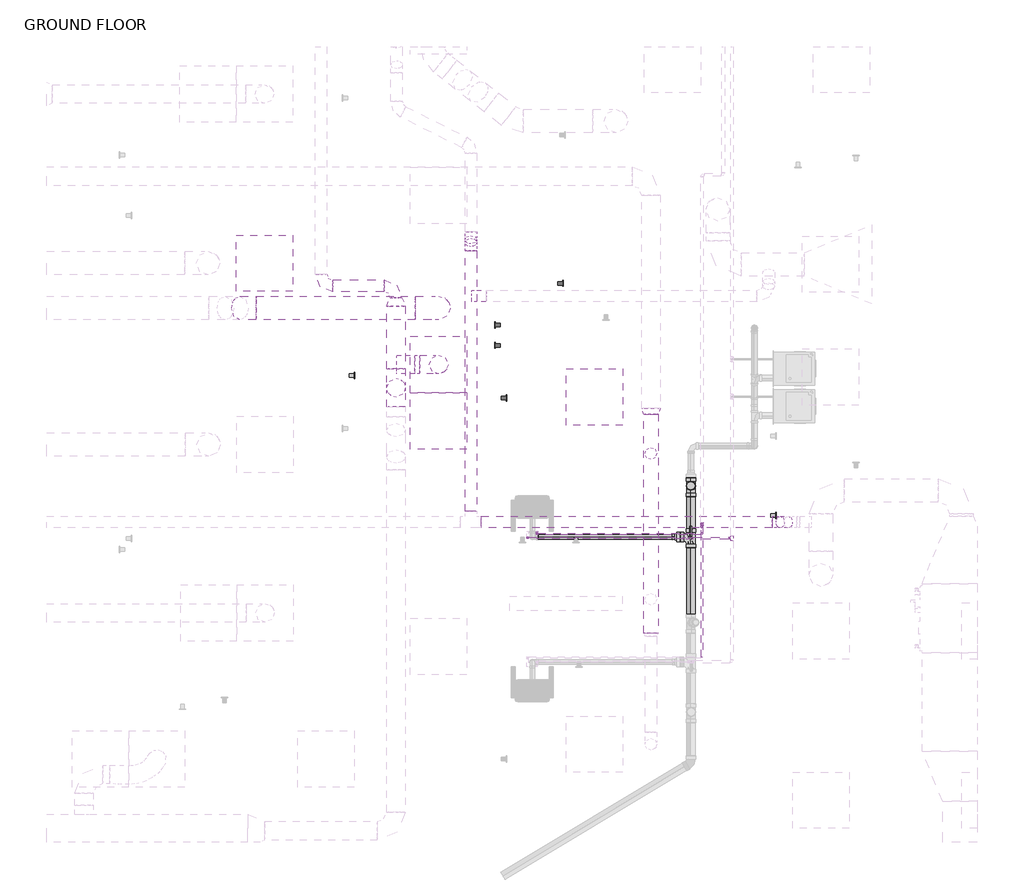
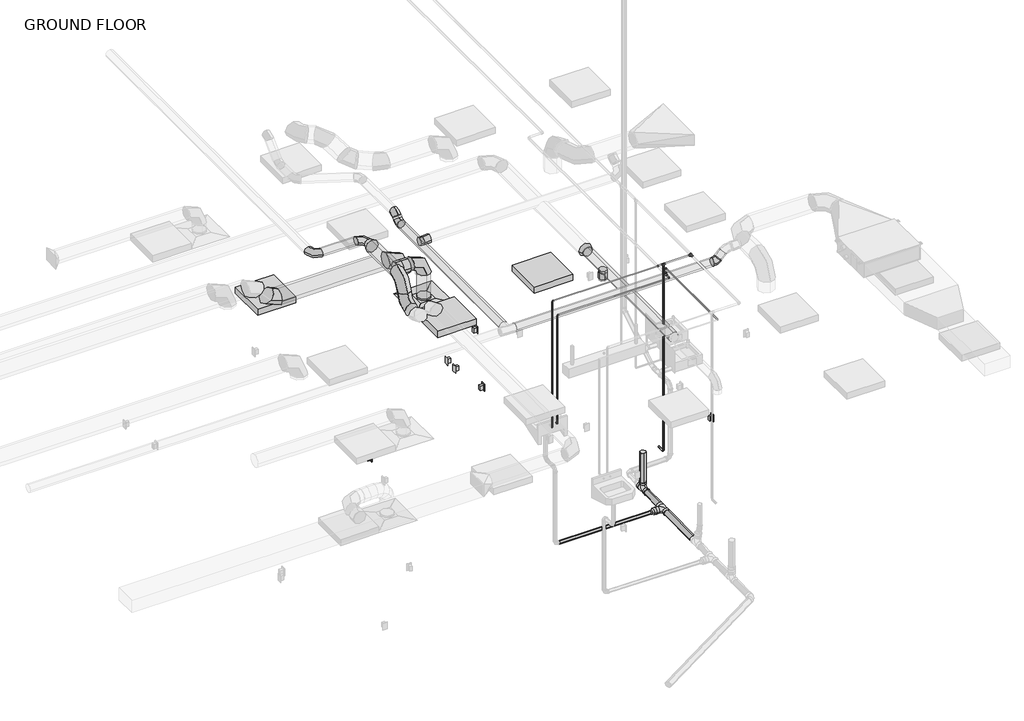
# One storey, part 8 of 21: 17 pipe fittings, 16 pipe segments, 15 duct fittings, 11 duct segments, 3 light fixtures, 3 proxies, 3 switching devices, 1 air terminal.
"""IFC4 building model written with IfcOpenShell, lengths in millimetres."""

from ifc_helpers import new_model, si_unit, point, frame, frame_2d, origin, place, context, project, spatial, circle_curve, trimmed, segment, composite_curve, outline, extrude, transform, mapped, element, save
from components import air_terminal_e9020785, duplex_receptacle_countertop_10251bba, round_elbow_1_d_a253342a, round_elbow_1_d_6fec3262, round_elbow_1_d_c80420c1, round_elbow_1_d_ea3dccb8, round_elbow_1_d_d98422f0, round_elbow_1_d_d4250430, round_takeoff_standard_331f3988, round_takeoff_standard_aff246af, round_takeoff_standard_0d53327c, round_transition_angle_45_degree_d7d10bec, round_transition_angle_45_degree_998e22e1, troffer_corner_insert_2x2_3lamp_e67c7f8f, elbow_generic_standard_738589b0, elbow_generic_standard_a088f956, reducer_pvc_sch_40_dwv_standard_bed7e4d3, tee_generic_standard_5078887e, tee_generic_standard_d345b28c, tee_sanitary_pvc_sch_40_dwv_standard_1c89b272, tee_sanitary_pvc_sch_40_dwv_standard_2808dae9, transition_generic_standard_19d9bb8b, transition_generic_standard_44e35838, transition_generic_standard_df161815, transition_generic_standard_1e832544

model = new_model("IFC4")

# Units and contexts
model_context = context("Model", 3, world=origin())
ifc_project = project(units=[si_unit("LENGTHUNIT", "METRE", prefix="MILLI")], contexts=[model_context])

# Site, building, storey
site = spatial("IfcSite", under=ifc_project)
building = spatial("IfcBuilding", under=site)
storey = spatial("IfcBuildingStorey", under=building, Name="GROUND FLOOR", Elevation=30480.0)

# Air terminal
placement = place(None, origin())
air_terminal_shape = air_terminal_e9020785(model_context)
element("IfcAirTerminal", 1, ObjectType="Supply Diffuser - Rectangular Face Round Neck - Hosted : 24\"x24\" Face 8\" Neck - Hosted", at=placement, inside=storey, context=model_context, shape_type="MappedRepresentation", body=[
    mapped(air_terminal_shape, transform((10211.7545393, -1542.0554995, 33223.2), x_axis=(0.0, -1.0, 0.0), y_axis=(-1.0, 0.0, 0.0), z_axis=(0.0, 0.0, -1.0))),
])

# Proxies
duplex_receptacle_countertop_shape = duplex_receptacle_countertop_10251bba(model_context)
element("IfcBuildingElementProxy", 2, Name="Duplex Receptacle : GFCI", ObjectType="Duplex Receptacle : GFCI", at=placement, inside=storey, context=model_context, shape_type="MappedRepresentation", body=[
    mapped(duplex_receptacle_countertop_shape, transform((10945.1795393, -1904.4991631, 31699.2), x_axis=(0.0, 1.0, 0.0), y_axis=(0.0, 0.0, 1.0), z_axis=(1.0, 0.0, 0.0))),
])
element("IfcBuildingElementProxy", 3, Name="Duplex Receptacle : Standard", ObjectType="Duplex Receptacle : Standard", at=placement, inside=storey, context=model_context, shape_type="MappedRepresentation", body=[
    mapped(duplex_receptacle_countertop_shape, transform((9297.3545393, -1658.5626349, 30937.2), x_axis=(0.0, 1.0, 0.0), y_axis=(0.0, 0.0, 1.0), z_axis=(1.0, 0.0, 0.0))),
])
element("IfcBuildingElementProxy", 4, Name="Duplex Receptacle : Standard", ObjectType="Duplex Receptacle : Standard", at=placement, inside=storey, context=model_context, shape_type="MappedRepresentation", body=[
    mapped(duplex_receptacle_countertop_shape, transform((13856.6545393, -3176.2027773, 30937.2), x_axis=(0.0, 1.0, 0.0), y_axis=(0.0, 0.0, 1.0), z_axis=(1.0, 0.0, 0.0))),
])

# Duct fittings
round_elbow_1_d_shape = round_elbow_1_d_a253342a(model_context)
element("IfcDuctFitting", 5, ObjectType="Round Elbow : 1 D", at=placement, inside=storey, context=model_context, shape_type="MappedRepresentation", body=[
    mapped(round_elbow_1_d_shape, transform((10211.7545393, -1542.0554995, 33877.25), x_axis=(1.0, 0.0, 0.0), y_axis=(0.0, 0.0, -1.0), z_axis=(0.0, 1.0, 0.0))),
])
element("IfcDuctFitting", 6, ObjectType="Round Elbow : 1 D", at=placement, inside=storey, context=model_context, shape_type="MappedRepresentation", body=[
    mapped(round_elbow_1_d_shape, transform((9751.3795393, -1793.3165405, 33877.25), x_axis=(0.0, -1.0, 0.0), y_axis=(0.0, 0.0, -1.0), z_axis=(1.0, 0.0, 0.0))),
])
element("IfcDuctFitting", 7, ObjectType="Round Elbow : 1 D", at=placement, inside=storey, context=model_context, shape_type="MappedRepresentation", body=[
    mapped(round_elbow_1_d_shape, transform((9751.3795393, -1793.3165405, 33470.85), x_axis=(0.0, 0.0, -1.0), y_axis=(0.0, -1.0, 0.0), z_axis=(-1.0, 0.0, 0.0))),
])
round_elbow_1_d_2_shape = round_elbow_1_d_6fec3262(model_context)
element("IfcDuctFitting", 8, ObjectType="Round Elbow : 1 D", at=placement, inside=storey, context=model_context, shape_type="MappedRepresentation", body=[
    mapped(round_elbow_1_d_2_shape, transform((10211.7545393, -932.4554995, 33578.8), x_axis=(0.0, 0.0, 1.0), y_axis=(-1.0, 0.0, 0.0), z_axis=(0.0, -1.0, 0.0))),
])
round_elbow_1_d_3_shape = round_elbow_1_d_c80420c1(model_context)
element("IfcDuctFitting", 9, ObjectType="Round Elbow : 1 D", at=placement, inside=storey, context=model_context, shape_type="MappedRepresentation", body=[
    mapped(round_elbow_1_d_3_shape, transform((9751.3795393, -691.6850038, 33877.25), x_axis=(0.0, 1.0, 0.0), y_axis=(-1.0, 0.0, 0.0), z_axis=(0.0, 0.0, 1.0))),
])
element("IfcDuctFitting", 10, ObjectType="Round Elbow : 1 D", at=placement, inside=storey, context=model_context, shape_type="MappedRepresentation", body=[
    mapped(round_elbow_1_d_3_shape, transform((8938.5795393, -691.6850038, 33877.25), x_axis=(0.0, -1.0, 0.0), y_axis=(1.0, 0.0, 0.0), z_axis=(0.0, 0.0, 1.0))),
])
round_elbow_1_d_4_shape = round_elbow_1_d_ea3dccb8(model_context)
element("IfcDuctFitting", 11, ObjectType="Round Elbow : 1 D", at=placement, inside=storey, context=model_context, shape_type="MappedRepresentation", body=[
    mapped(round_elbow_1_d_4_shape, transform((8136.5019534, -932.4554995, 33578.8), x_axis=(0.7071067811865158, 0.0, -0.7071067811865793), y_axis=(0.7071067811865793, 0.0, 0.7071067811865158), z_axis=(0.0, -1.0, 0.0))),
])
round_elbow_1_d_5_shape = round_elbow_1_d_d98422f0(model_context)
element("IfcDuctFitting", 12, ObjectType="Round Elbow : 1 D", at=placement, inside=storey, context=model_context, shape_type="MappedRepresentation", body=[
    mapped(round_elbow_1_d_5_shape, transform((13868.7409865, -3245.6216457, 33602.9101563), x_axis=(-0.7071065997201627, 0.0, -0.707106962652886), y_axis=(-0.707106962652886, 0.0, 0.7071065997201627), z_axis=(0.0, 1.0, 0.0))),
])
round_elbow_1_d_6_shape = round_elbow_1_d_d4250430(model_context)
element("IfcDuctFitting", 13, ObjectType="Round Elbow : 1 D", at=placement, inside=storey, context=model_context, shape_type="MappedRepresentation", body=[
    mapped(round_elbow_1_d_6_shape, transform((10560.5577502, -156.9708741, 33705.8), x_axis=(0.0, -1.0, 0.0), y_axis=(0.0, 0.0, -1.0), z_axis=(1.0, 0.0, 0.0))),
])
element("IfcDuctFitting", 14, ObjectType="Round Elbow : 1 D", at=placement, inside=storey, context=model_context, shape_type="MappedRepresentation", body=[
    mapped(round_elbow_1_d_6_shape, transform((10560.5577502, -259.8606861, 33602.9101563), x_axis=(0.0, -0.7071066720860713, -0.7071068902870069), y_axis=(0.0, -0.7071068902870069, 0.7071066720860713), z_axis=(-1.0, 0.0, 0.0))),
])
round_takeoff_standard_shape = round_takeoff_standard_331f3988(model_context)
element("IfcDuctFitting", 15, ObjectType="Round Takeoff : Standard", at=placement, inside=storey, context=model_context, shape_type="MappedRepresentation", body=[
    mapped(round_takeoff_standard_shape, transform((10624.0577502, -800.4644888, 33602.9101562), x_axis=(1.0, 0.0, 0.0), y_axis=(0.0, -1.0, 0.0), z_axis=(0.0, 0.0, -1.0))),
])
round_takeoff_standard_2_shape = round_takeoff_standard_aff246af(model_context)
element("IfcDuctFitting", 16, ObjectType="Round Takeoff : Standard", at=placement, inside=storey, context=model_context, shape_type="MappedRepresentation", body=[
    mapped(round_takeoff_standard_2_shape, transform((9852.9795393, -1542.0554995, 33877.25), x_axis=(1.0, 0.0, 0.0), y_axis=(0.0, -1.0, 0.0), z_axis=(0.0, 0.0, -1.0))),
])
round_takeoff_standard_3_shape = round_takeoff_standard_0d53327c(model_context)
element("IfcDuctFitting", 17, ObjectType="Round Takeoff : Standard", at=placement, inside=storey, context=model_context, shape_type="MappedRepresentation", body=[
    mapped(round_takeoff_standard_3_shape, transform((12507.2795393, -2504.0804995, 33451.8), x_axis=(0.0, 0.0, -1.0), y_axis=(-1.0, 0.0, 0.0), z_axis=(0.0, 1.0, 0.0))),
])
round_transition_angle_45_degree_shape = round_transition_angle_45_degree_d7d10bec(model_context)
element("IfcDuctFitting", 18, ObjectType="Round Transition - Angle : 45 Degree", at=placement, inside=storey, context=model_context, shape_type="MappedRepresentation", body=[
    mapped(round_transition_angle_45_degree_shape, transform((9751.3795393, -910.6665405, 33877.25), x_axis=(0.0, 1.0, 0.0), y_axis=(-1.0, 0.0, 0.0), z_axis=(0.0, 0.0, 1.0))),
])
round_transition_angle_45_degree_2_shape = round_transition_angle_45_degree_998e22e1(model_context)
element("IfcDuctFitting", 19, ObjectType="Round Transition - Angle : 45 Degree", at=placement, inside=storey, context=model_context, shape_type="MappedRepresentation", body=[
    mapped(round_transition_angle_45_degree_2_shape, transform((12507.2795393, -2078.3733869, 33528.0), x_axis=(0.0, 1.0, 0.0), y_axis=(-1.0, 0.0, 0.0), z_axis=(0.0, 0.0, 1.0))),
])

# Duct segments
element("IfcDuctSegment", 20, ObjectType="Taps / Short Radius", at=placement, inside=storey, context=model_context, shape_type="SweptSolid", body=[
    extrude(outline(composite_curve([segment(trimmed(circle_curve(frame_2d((-691.6850038, 33877.25)), 63.5), [point((-628.1850038, 33877.25))], [point((-691.6850038, 33813.75))], False, "CARTESIAN"), True, "CONTINUOUS"), segment(trimmed(circle_curve(frame_2d((-691.6850038, 33877.25)), 63.5), [point((-691.6850038, 33813.75))], [point((-755.1850038, 33877.25))], False, "CARTESIAN"), True, "CONTINUOUS"), segment(trimmed(circle_curve(frame_2d((-691.6850038, 33877.25)), 63.5), [point((-755.1850038, 33877.25))], [point((-691.6850038, 33940.75))], False, "CARTESIAN"), True, "CONTINUOUS"), segment(trimmed(circle_curve(frame_2d((-691.6850038, 33877.25)), 63.5), [point((-691.6850038, 33940.75))], [point((-628.1850038, 33877.25))], False, "CARTESIAN"), True, "CONTINUOUS")], self_intersect=False)), frame((9065.5795393, 0.0, 0.0), z_axis=(1.0, 0.0, 0.0), x_axis=(0.0, 1.0, 0.0)), (0.0, 0.0, 1.0), 558.8),
])
element("IfcDuctSegment", 21, ObjectType="Taps / Short Radius", at=placement, inside=storey, context=model_context, shape_type="SweptSolid", body=[
    extrude(outline(composite_curve([segment(trimmed(circle_curve(frame_2d((10211.7545393, -1542.0554995)), 101.6), [point((10211.7545393, -1643.6554995))], [point((10110.1545393, -1542.0554995))], False, "CARTESIAN"), True, "CONTINUOUS"), segment(trimmed(circle_curve(frame_2d((10211.7545393, -1542.0554995)), 101.6), [point((10110.1545393, -1542.0554995))], [point((10211.7545393, -1440.4554995))], False, "CARTESIAN"), True, "CONTINUOUS"), segment(trimmed(circle_curve(frame_2d((10211.7545393, -1542.0554995)), 101.6), [point((10211.7545393, -1440.4554995))], [point((10313.3545393, -1542.0554995))], False, "CARTESIAN"), True, "CONTINUOUS"), segment(trimmed(circle_curve(frame_2d((10211.7545393, -1542.0554995)), 101.6), [point((10313.3545393, -1542.0554995))], [point((10211.7545393, -1643.6554995))], False, "CARTESIAN"), True, "CONTINUOUS")], self_intersect=False)), frame((0.0, 0.0, 33277.175), z_axis=(0.0, 0.0, 1.0), x_axis=(1.0, 0.0, 0.0)), (0.0, 0.0, 1.0), 396.875),
])
element("IfcDuctSegment", 22, ObjectType="Taps / Short Radius", at=placement, inside=storey, context=model_context, shape_type="SweptSolid", body=[
    extrude(outline(composite_curve([segment(trimmed(circle_curve(frame_2d((-1542.0554995, 33877.25)), 101.6), [point((-1643.6554995, 33877.25))], [point((-1542.0554995, 33978.85))], False, "CARTESIAN"), True, "CONTINUOUS"), segment(trimmed(circle_curve(frame_2d((-1542.0554995, 33877.25)), 101.6), [point((-1542.0554995, 33978.85))], [point((-1440.4554995, 33877.25))], False, "CARTESIAN"), True, "CONTINUOUS"), segment(trimmed(circle_curve(frame_2d((-1542.0554995, 33877.25)), 101.6), [point((-1440.4554995, 33877.25))], [point((-1542.0554995, 33775.65))], False, "CARTESIAN"), True, "CONTINUOUS"), segment(trimmed(circle_curve(frame_2d((-1542.0554995, 33877.25)), 101.6), [point((-1542.0554995, 33775.65))], [point((-1643.6554995, 33877.25))], False, "CARTESIAN"), True, "CONTINUOUS")], self_intersect=False)), frame((9954.5795393, 0.0, 0.0), z_axis=(1.0, 0.0, 0.0), x_axis=(0.0, 1.0, 0.0)), (0.0, 0.0, 1.0), 53.975),
])
element("IfcDuctSegment", 23, ObjectType="Taps / Short Radius", at=placement, inside=storey, context=model_context, shape_type="SweptSolid", body=[
    extrude(outline(composite_curve([segment(trimmed(circle_curve(frame_2d((-932.4554995, 33578.8)), 127.0), [point((-1059.4554995, 33578.8))], [point((-932.4554995, 33705.8))], False, "CARTESIAN"), True, "CONTINUOUS"), segment(trimmed(circle_curve(frame_2d((-932.4554995, 33578.8)), 127.0), [point((-932.4554995, 33705.8))], [point((-805.4554995, 33578.8))], False, "CARTESIAN"), True, "CONTINUOUS"), segment(trimmed(circle_curve(frame_2d((-932.4554995, 33578.8)), 127.0), [point((-805.4554995, 33578.8))], [point((-932.4554995, 33451.8))], False, "CARTESIAN"), True, "CONTINUOUS"), segment(trimmed(circle_curve(frame_2d((-932.4554995, 33578.8)), 127.0), [point((-932.4554995, 33451.8))], [point((-1059.4554995, 33578.8))], False, "CARTESIAN"), True, "CONTINUOUS")], self_intersect=False)), frame((8241.7121983, 0.0, 0.0), z_axis=(1.0, 0.0, 0.0), x_axis=(0.0, 1.0, 0.0)), (0.0, 0.0, 1.0), 1716.042341),
])
element("IfcDuctSegment", 24, ObjectType="Taps / Short Radius", at=placement, inside=storey, context=model_context, shape_type="SweptSolid", body=[
    extrude(outline(composite_curve([segment(trimmed(circle_curve(frame_2d((-3245.6216457, 33602.867541)), 63.5), [point((-3182.1216457, 33602.867541))], [point((-3245.6216457, 33539.367541))], False, "CARTESIAN"), True, "CONTINUOUS"), segment(trimmed(circle_curve(frame_2d((-3245.6216457, 33602.867541)), 63.5), [point((-3245.6216457, 33539.367541))], [point((-3309.1216457, 33602.867541))], False, "CARTESIAN"), True, "CONTINUOUS"), segment(trimmed(circle_curve(frame_2d((-3245.6216457, 33602.867541)), 63.5), [point((-3309.1216457, 33602.867541))], [point((-3245.6216457, 33666.367541))], False, "CARTESIAN"), True, "CONTINUOUS"), segment(trimmed(circle_curve(frame_2d((-3245.6216457, 33602.867541)), 63.5), [point((-3245.6216457, 33666.367541))], [point((-3182.1216457, 33602.867541))], False, "CARTESIAN"), True, "CONTINUOUS")], self_intersect=False)), frame((10674.8577502, 0.0, 0.0), z_axis=(1.0, 0.0, 0.0), x_axis=(0.0, 1.0, 0.0)), (0.0, 0.0, 1.0), 3141.2354795),
])
element("IfcDuctSegment", 25, ObjectType="Taps / Short Radius", at=placement, inside=storey, context=model_context, shape_type="SweptSolid", body=[
    extrude(outline(composite_curve([segment(trimmed(circle_curve(frame_2d((0.0, -63.5)), 63.5), [point((0.0, 0.0))], [point((63.5, -63.5))], False, "CARTESIAN"), True, "CONTINUOUS"), segment(trimmed(circle_curve(frame_2d((0.0, -63.5)), 63.5), [point((63.5, -63.5))], [point((0.0, -127.0))], False, "CARTESIAN"), True, "CONTINUOUS"), segment(trimmed(circle_curve(frame_2d((0.0, -63.5)), 63.5), [point((0.0, -127.0))], [point((-63.5, -63.5))], False, "CARTESIAN"), True, "CONTINUOUS"), segment(trimmed(circle_curve(frame_2d((0.0, -63.5)), 63.5), [point((-63.5, -63.5))], [point((0.0, 0.0))], False, "CARTESIAN"), True, "CONTINUOUS")], self_intersect=False)), frame((13905.9384292, -3182.1216457, 33640.1076181), z_axis=(0.7071065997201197, 0.0, 0.7071069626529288), x_axis=(0.7071069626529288, 0.0, -0.7071065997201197)), (0.0, 0.0, 1.0), 122.2427082),
])
element("IfcDuctSegment", 26, ObjectType="Taps / Short Radius", at=placement, inside=storey, context=model_context, shape_type="SweptSolid", body=[
    extrude(outline(composite_curve([segment(trimmed(circle_curve(frame_2d((33528.0, 12507.2795393)), 76.2), [point((33528.0, 12583.4795393))], [point((33604.2, 12507.2795393))], False, "CARTESIAN"), True, "CONTINUOUS"), segment(trimmed(circle_curve(frame_2d((33528.0, 12507.2795393)), 76.2), [point((33604.2, 12507.2795393))], [point((33528.0, 12431.0795393))], False, "CARTESIAN"), True, "CONTINUOUS"), segment(trimmed(circle_curve(frame_2d((33528.0, 12507.2795393)), 76.2), [point((33528.0, 12431.0795393))], [point((33451.8, 12507.2795393))], False, "CARTESIAN"), True, "CONTINUOUS"), segment(trimmed(circle_curve(frame_2d((33528.0, 12507.2795393)), 76.2), [point((33451.8, 12507.2795393))], [point((33528.0, 12583.4795393))], False, "CARTESIAN"), True, "CONTINUOUS")], self_intersect=False)), frame((0.0, -4448.2699872, 0.0), z_axis=(0.0, 1.0, 0.0), x_axis=(0.0, 0.0, 1.0)), (0.0, 0.0, 1.0), 2369.8966003),
])
element("IfcDuctSegment", 27, ObjectType="Taps / Short Radius", at=placement, inside=storey, context=model_context, shape_type="SweptSolid", body=[
    extrude(outline(composite_curve([segment(trimmed(circle_curve(frame_2d((0.0, 63.5)), 63.5), [point((-63.5, 63.5))], [point((0.0, 127.0))], False, "CARTESIAN"), True, "CONTINUOUS"), segment(trimmed(circle_curve(frame_2d((0.0, 63.5)), 63.5), [point((0.0, 127.0))], [point((63.5, 63.5))], False, "CARTESIAN"), True, "CONTINUOUS"), segment(trimmed(circle_curve(frame_2d((0.0, 63.5)), 63.5), [point((63.5, 63.5))], [point((0.0, 0.0))], False, "CARTESIAN"), True, "CONTINUOUS"), segment(trimmed(circle_curve(frame_2d((0.0, 63.5)), 63.5), [point((0.0, 0.0))], [point((-63.5, 63.5))], False, "CARTESIAN"), True, "CONTINUOUS")], self_intersect=False)), frame((12507.2795393, -2567.5804995, 33324.8), z_axis=(0.0, -2.3192114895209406e-12, 1.0), x_axis=(1.0, 0.0, 0.0)), (0.0, 0.0, 1.0), 25.4),
])
element("IfcDuctSegment", 28, ObjectType="Taps / Short Radius", at=placement, inside=storey, context=model_context, shape_type="SweptSolid", body=[
    extrude(outline(composite_curve([segment(trimmed(circle_curve(frame_2d((33602.867541, 10560.5577502)), 63.5), [point((33602.867541, 10497.0577502))], [point((33539.367541, 10560.5577502))], False, "CARTESIAN"), True, "CONTINUOUS"), segment(trimmed(circle_curve(frame_2d((33602.867541, 10560.5577502)), 63.5), [point((33539.367541, 10560.5577502))], [point((33602.867541, 10624.0577502))], False, "CARTESIAN"), True, "CONTINUOUS"), segment(trimmed(circle_curve(frame_2d((33602.867541, 10560.5577502)), 63.5), [point((33602.867541, 10624.0577502))], [point((33666.367541, 10560.5577502))], False, "CARTESIAN"), True, "CONTINUOUS"), segment(trimmed(circle_curve(frame_2d((33602.867541, 10560.5577502)), 63.5), [point((33666.367541, 10560.5577502))], [point((33602.867541, 10497.0577502))], False, "CARTESIAN"), True, "CONTINUOUS")], self_intersect=False)), frame((0.0, -3131.3216457, 0.0), z_axis=(0.0, 1.0, 0.0), x_axis=(0.0, 0.0, 1.0)), (0.0, 0.0, 1.0), 2818.8132105),
])
element("IfcDuctSegment", 29, ObjectType="Taps / Short Radius", at=placement, inside=storey, context=model_context, shape_type="SweptSolid", body=[
    extrude(outline(composite_curve([segment(trimmed(circle_curve(frame_2d((0.0, -63.5)), 63.5), [point((-63.5, -63.5))], [point((0.0, 0.0))], False, "CARTESIAN"), True, "CONTINUOUS"), segment(trimmed(circle_curve(frame_2d((0.0, -63.5)), 63.5), [point((0.0, 0.0))], [point((63.5, -63.5))], False, "CARTESIAN"), True, "CONTINUOUS"), segment(trimmed(circle_curve(frame_2d((0.0, -63.5)), 63.5), [point((63.5, -63.5))], [point((0.0, -127.0))], False, "CARTESIAN"), True, "CONTINUOUS"), segment(trimmed(circle_curve(frame_2d((0.0, -63.5)), 63.5), [point((0.0, -127.0))], [point((-63.5, -63.5))], False, "CARTESIAN"), True, "CONTINUOUS")], self_intersect=False)), frame((10560.5577502, -177.7619574, 33595.2063352), z_axis=(0.0, 0.7071066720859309, 0.7071068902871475), x_axis=(1.0, 0.0, 0.0)), (0.0, 0.0, 1.0), 40.2979222),
])
element("IfcDuctSegment", 30, ObjectType="Taps / Short Radius", at=placement, inside=storey, context=model_context, shape_type="SweptSolid", body=[
    extrude(outline(composite_curve([segment(trimmed(circle_curve(frame_2d((33877.25, 9751.3795393)), 101.6), [point((33877.25, 9649.7795393))], [point((33775.65, 9751.3795393))], False, "CARTESIAN"), True, "CONTINUOUS"), segment(trimmed(circle_curve(frame_2d((33877.25, 9751.3795393)), 101.6), [point((33775.65, 9751.3795393))], [point((33877.25, 9852.9795393))], False, "CARTESIAN"), True, "CONTINUOUS"), segment(trimmed(circle_curve(frame_2d((33877.25, 9751.3795393)), 101.6), [point((33877.25, 9852.9795393))], [point((33978.85, 9751.3795393))], False, "CARTESIAN"), True, "CONTINUOUS"), segment(trimmed(circle_curve(frame_2d((33877.25, 9751.3795393)), 101.6), [point((33978.85, 9751.3795393))], [point((33877.25, 9649.7795393))], False, "CARTESIAN"), True, "CONTINUOUS")], self_intersect=False)), frame((0.0, -1590.1165405, 0.0), z_axis=(0.0, 1.0, 0.0), x_axis=(0.0, 0.0, 1.0)), (0.0, 0.0, 1.0), 679.45),
])

# Light fixtures
troffer_corner_insert_2x2_3lamp_shape = troffer_corner_insert_2x2_3lamp_e67c7f8f(model_context)
element("IfcLightFixture", 31, ObjectType="Troffer Corner Insert : 2x2 3Lamp", at=placement, inside=storey, context=model_context, shape_type="MappedRepresentation", body=[
    mapped(troffer_corner_insert_2x2_3lamp_shape, transform((8328.8671727, -446.6804995, 30784.8), x_axis=(1.0, 0.0, 0.0), y_axis=(0.0, 1.0, 0.0), z_axis=(0.0, 0.0, 1.0))),
])
element("IfcLightFixture", 32, ObjectType="Troffer Corner Insert : 2x2 3Lamp", at=placement, inside=storey, context=model_context, shape_type="MappedRepresentation", body=[
    mapped(troffer_corner_insert_2x2_3lamp_shape, transform((10211.7545393, -2151.6554995, 30784.8), x_axis=(1.0, 0.0, 0.0), y_axis=(0.0, 1.0, 0.0), z_axis=(0.0, 0.0, 1.0))),
])
element("IfcLightFixture", 33, ObjectType="Troffer Corner Insert : 2x2 3Lamp", at=placement, inside=storey, context=model_context, shape_type="MappedRepresentation", body=[
    mapped(troffer_corner_insert_2x2_3lamp_shape, transform((11897.6795393, -1894.4804995, 30784.8), x_axis=(1.0, 0.0, 0.0), y_axis=(0.0, 1.0, 0.0), z_axis=(0.0, 0.0, 1.0))),
])

# Pipe fittings
elbow_generic_standard_shape = elbow_generic_standard_738589b0(model_context)
element("IfcPipeFitting", 34, ObjectType="Elbow - Generic : Standard", at=placement, inside=storey, context=model_context, shape_type="MappedRepresentation", body=[
    mapped(elbow_generic_standard_shape, transform((12939.0795393, -3418.4804995, 30835.6), x_axis=(0.0, 0.0, -1.0), y_axis=(0.0, 1.0, 0.0), z_axis=(1.0, 0.0, 0.0))),
])
elbow_generic_standard_2_shape = elbow_generic_standard_a088f956(model_context)
element("IfcPipeFitting", 35, ObjectType="Elbow - Generic : Standard", at=placement, inside=storey, context=model_context, shape_type="MappedRepresentation", body=[
    mapped(elbow_generic_standard_2_shape, transform((11173.7795393, -3418.4804995, 31851.6), x_axis=(0.0, -1.0, 0.0), y_axis=(0.0, 0.0, 1.0), z_axis=(-1.0, 0.0, 0.0))),
])
element("IfcPipeFitting", 36, ObjectType="Elbow - Generic : Standard", at=placement, inside=storey, context=model_context, shape_type="MappedRepresentation", body=[
    mapped(elbow_generic_standard_2_shape, transform((11173.7795393, -3418.4804995, 33978.2831664), x_axis=(0.0, 0.0, 1.0), y_axis=(1.0, 0.0, 0.0), z_axis=(0.0, 1.0, 0.0))),
])
element("IfcPipeFitting", 37, ObjectType="Elbow - Generic : Standard", at=placement, inside=storey, context=model_context, shape_type="MappedRepresentation", body=[
    mapped(elbow_generic_standard_2_shape, transform((13060.9512041, -3376.3689834, 33680.4), x_axis=(1.0, 0.0, 0.0), y_axis=(0.0, 1.0, 0.0), z_axis=(0.0, 0.0, 1.0))),
])
element("IfcPipeFitting", 38, ObjectType="Elbow - Generic : Standard", at=placement, inside=storey, context=model_context, shape_type="MappedRepresentation", body=[
    mapped(elbow_generic_standard_2_shape, transform((13060.9512041, -3272.4304995, 33782.0), x_axis=(0.0, 1.0, 0.0), y_axis=(0.0, 0.0, -1.0), z_axis=(-1.0, 0.0, 0.0))),
])
element("IfcPipeFitting", 39, ObjectType="Elbow - Generic : Standard", at=placement, inside=storey, context=model_context, shape_type="MappedRepresentation", body=[
    mapped(elbow_generic_standard_2_shape, transform((11275.3795393, -3376.3689834, 33680.4), x_axis=(-1.0, 0.0, 0.0), y_axis=(0.0, 0.0, -1.0), z_axis=(0.0, -1.0, 0.0))),
])
element("IfcPipeFitting", 40, ObjectType="Elbow - Generic : Standard", at=placement, inside=storey, context=model_context, shape_type="MappedRepresentation", body=[
    mapped(elbow_generic_standard_2_shape, transform((11275.3795393, -3376.3689834, 31851.6), x_axis=(0.0, 0.0, -1.0), y_axis=(0.0, 1.0, 0.0), z_axis=(1.0, 0.0, 0.0))),
])
reducer_pvc_sch_40_dwv_standard_shape = reducer_pvc_sch_40_dwv_standard_bed7e4d3(model_context)
element("IfcPipeFitting", 41, ObjectType="Reducer - PVC - Sch 40 - DWV : Standard", at=placement, inside=storey, context=model_context, shape_type="MappedRepresentation", body=[
    mapped(reducer_pvc_sch_40_dwv_standard_shape, transform((12823.1798933, -3405.7804995, 29865.00368), x_axis=(-0.9999952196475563, 0.0, 0.0030920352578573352), y_axis=(-3.2206799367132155e-05, -0.9999457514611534, -0.010416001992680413), z_axis=(0.003091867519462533, -0.010416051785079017, 0.9999409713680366))),
])
tee_generic_standard_shape = tee_generic_standard_5078887e(model_context)
element("IfcPipeFitting", 42, ObjectType="Tee - Generic : Standard", at=placement, inside=storey, context=model_context, shape_type="MappedRepresentation", body=[
    mapped(tee_generic_standard_shape, transform((12939.0795393, -3418.4804995, 33978.2831664), x_axis=(-1.0, 0.0, 0.0), y_axis=(0.0, 0.0, 1.0), z_axis=(0.0, 1.0, 0.0))),
])
tee_generic_standard_2_shape = tee_generic_standard_d345b28c(model_context)
element("IfcPipeFitting", 43, ObjectType="Tee - Generic : Standard", at=placement, inside=storey, context=model_context, shape_type="MappedRepresentation", body=[
    mapped(tee_generic_standard_2_shape, transform((13383.5569177, -3418.4804995, 33978.2831664), x_axis=(0.0, -1.0, 0.0), y_axis=(1.0, 0.0, 0.0), z_axis=(0.0, 0.0, 1.0))),
])
element("IfcPipeFitting", 44, ObjectType="Tee - Generic : Standard", at=placement, inside=storey, context=model_context, shape_type="MappedRepresentation", body=[
    mapped(tee_generic_standard_2_shape, transform((13060.9512041, -3272.4304995, 33680.4), x_axis=(0.0, 1.0, 0.0), y_axis=(0.0, 0.0, -1.0), z_axis=(-1.0, 0.0, 0.0))),
])
tee_sanitary_pvc_sch_40_dwv_standard_shape = tee_sanitary_pvc_sch_40_dwv_standard_1c89b272(model_context)
element("IfcPipeFitting", 45, ObjectType="Tee Sanitary - PVC - Sch 40 - DWV : Standard", at=placement, inside=storey, context=model_context, shape_type="MappedRepresentation", body=[
    mapped(tee_sanitary_pvc_sch_40_dwv_standard_shape, transform((12939.0795393, -2853.3308732, 29870.3999961), x_axis=(0.0, 0.9999457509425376, 0.010416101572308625), y_axis=(0.0, 0.010416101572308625, -0.9999457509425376), z_axis=(-1.0, 0.0, 0.0))),
])
tee_sanitary_pvc_sch_40_dwv_standard_2_shape = tee_sanitary_pvc_sch_40_dwv_standard_2808dae9(model_context)
element("IfcPipeFitting", 46, ObjectType="Tee Sanitary - PVC - Sch 40 - DWV : Standard", at=placement, inside=storey, context=model_context, shape_type="MappedRepresentation", body=[
    mapped(tee_sanitary_pvc_sch_40_dwv_standard_2_shape, transform((12939.0795393, -3405.7804995, 29864.6453125), x_axis=(0.0, 0.9999457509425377, 0.010416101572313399), y_axis=(0.9999952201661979, 3.2205206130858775e-05, -0.0030916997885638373), z_axis=(-0.0030918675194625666, 0.010416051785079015, -0.9999409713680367))),
])
transition_generic_standard_shape = transition_generic_standard_19d9bb8b(model_context)
element("IfcPipeFitting", 47, ObjectType="Transition - Generic : Standard", at=placement, inside=storey, context=model_context, shape_type="MappedRepresentation", body=[
    mapped(transition_generic_standard_shape, transform((13060.9512041, -3272.4304995, 33707.3875), x_axis=(0.0, 0.0, 1.0), y_axis=(0.0, 1.0, 0.0), z_axis=(-1.0, 0.0, 0.0))),
])
transition_generic_standard_2_shape = transition_generic_standard_44e35838(model_context)
element("IfcPipeFitting", 48, ObjectType="Transition - Generic : Standard", at=placement, inside=storey, context=model_context, shape_type="MappedRepresentation", body=[
    mapped(transition_generic_standard_2_shape, transform((12855.7357893, -3418.4804995, 33978.2831664), x_axis=(-1.0, 0.0, 0.0), y_axis=(0.0, -1.0, 0.0), z_axis=(0.0, 0.0, 1.0))),
])
transition_generic_standard_3_shape = transition_generic_standard_df161815(model_context)
element("IfcPipeFitting", 49, ObjectType="Transition - Generic : Standard", at=placement, inside=storey, context=model_context, shape_type="MappedRepresentation", body=[
    mapped(transition_generic_standard_3_shape, transform((13060.9512041, -3299.4179995, 33680.4), x_axis=(0.0, -1.0, 0.0), y_axis=(1.0, 0.0, 0.0), z_axis=(0.0, 0.0, 1.0))),
])
transition_generic_standard_4_shape = transition_generic_standard_1e832544(model_context)
element("IfcPipeFitting", 50, ObjectType="Transition - Generic : Standard", at=placement, inside=storey, context=model_context, shape_type="MappedRepresentation", body=[
    mapped(transition_generic_standard_4_shape, transform((13356.5694177, -3418.4804995, 33978.2831664), x_axis=(-1.0, 0.0, 0.0), y_axis=(0.0, -1.0, 0.0), z_axis=(0.0, 0.0, 1.0))),
])

# Pipe segments
element("IfcPipeSegment", 51, ObjectType="Copper", at=placement, inside=storey, context=model_context, shape_type="SweptSolid", body=[
    extrude(outline(composite_curve([segment(trimmed(circle_curve(frame_2d((-3418.4804995, 33978.2831664)), 7.9375), [point((-3426.4179995, 33978.2831664))], [point((-3418.4804995, 33986.2206664))], False, "CARTESIAN"), True, "CONTINUOUS"), segment(trimmed(circle_curve(frame_2d((-3418.4804995, 33978.2831664)), 7.9375), [point((-3418.4804995, 33986.2206664))], [point((-3410.5429995, 33978.2831664))], False, "CARTESIAN"), True, "CONTINUOUS"), segment(trimmed(circle_curve(frame_2d((-3418.4804995, 33978.2831664)), 7.9375), [point((-3410.5429995, 33978.2831664))], [point((-3418.4804995, 33970.3456664))], False, "CARTESIAN"), True, "CONTINUOUS"), segment(trimmed(circle_curve(frame_2d((-3418.4804995, 33978.2831664)), 7.9375), [point((-3418.4804995, 33970.3456664))], [point((-3426.4179995, 33978.2831664))], False, "CARTESIAN"), True, "CONTINUOUS")], self_intersect=False)), frame((11188.0670393, 0.0, 0.0), z_axis=(1.0, 0.0, 0.0), x_axis=(0.0, 1.0, 0.0)), (0.0, 0.0, 1.0), 1662.1125),
])
element("IfcPipeSegment", 52, ObjectType="Copper", at=placement, inside=storey, context=model_context, shape_type="SweptSolid", body=[
    extrude(outline(composite_curve([segment(trimmed(circle_curve(frame_2d((11173.7795393, -3418.4804995)), 7.9375), [point((11165.8420393, -3418.4804995))], [point((11173.7795393, -3410.5429995))], False, "CARTESIAN"), True, "CONTINUOUS"), segment(trimmed(circle_curve(frame_2d((11173.7795393, -3418.4804995)), 7.9375), [point((11173.7795393, -3410.5429995))], [point((11181.7170393, -3418.4804995))], False, "CARTESIAN"), True, "CONTINUOUS"), segment(trimmed(circle_curve(frame_2d((11173.7795393, -3418.4804995)), 7.9375), [point((11181.7170393, -3418.4804995))], [point((11173.7795393, -3426.4179995))], False, "CARTESIAN"), True, "CONTINUOUS"), segment(trimmed(circle_curve(frame_2d((11173.7795393, -3418.4804995)), 7.9375), [point((11173.7795393, -3426.4179995))], [point((11165.8420393, -3418.4804995))], False, "CARTESIAN"), True, "CONTINUOUS")], self_intersect=False)), frame((0.0, 0.0, 31865.8875), z_axis=(0.0, 0.0, 1.0), x_axis=(1.0, 0.0, 0.0)), (0.0, 0.0, 1.0), 2098.1081664),
])
element("IfcPipeSegment", 53, ObjectType="Copper", at=placement, inside=storey, context=model_context, shape_type="SweptSolid", body=[
    extrude(outline(composite_curve([segment(trimmed(circle_curve(frame_2d((-3418.4804995, 33978.2831664)), 11.1125), [point((-3407.3679995, 33978.2831664))], [point((-3418.4804995, 33967.1706664))], False, "CARTESIAN"), True, "CONTINUOUS"), segment(trimmed(circle_curve(frame_2d((-3418.4804995, 33978.2831664)), 11.1125), [point((-3418.4804995, 33967.1706664))], [point((-3429.5929995, 33978.2831664))], False, "CARTESIAN"), True, "CONTINUOUS"), segment(trimmed(circle_curve(frame_2d((-3418.4804995, 33978.2831664)), 11.1125), [point((-3429.5929995, 33978.2831664))], [point((-3418.4804995, 33989.3956664))], False, "CARTESIAN"), True, "CONTINUOUS"), segment(trimmed(circle_curve(frame_2d((-3418.4804995, 33978.2831664)), 11.1125), [point((-3418.4804995, 33989.3956664))], [point((-3407.3679995, 33978.2831664))], False, "CARTESIAN"), True, "CONTINUOUS")], self_intersect=False)), frame((12855.7357893, 0.0, 0.0), z_axis=(1.0, 0.0, 0.0), x_axis=(0.0, 1.0, 0.0)), (0.0, 0.0, 1.0), 59.53125),
])
element("IfcPipeSegment", 54, ObjectType="Copper", at=placement, inside=storey, context=model_context, shape_type="SweptSolid", body=[
    extrude(outline(composite_curve([segment(trimmed(circle_curve(frame_2d((30835.6, 12939.0795393)), 11.1125), [point((30835.6, 12950.1920393))], [point((30846.7125, 12939.0795393))], False, "CARTESIAN"), True, "CONTINUOUS"), segment(trimmed(circle_curve(frame_2d((30835.6, 12939.0795393)), 11.1125), [point((30846.7125, 12939.0795393))], [point((30835.6, 12927.9670393))], False, "CARTESIAN"), True, "CONTINUOUS"), segment(trimmed(circle_curve(frame_2d((30835.6, 12939.0795393)), 11.1125), [point((30835.6, 12927.9670393))], [point((30824.4875, 12939.0795393))], False, "CARTESIAN"), True, "CONTINUOUS"), segment(trimmed(circle_curve(frame_2d((30835.6, 12939.0795393)), 11.1125), [point((30824.4875, 12939.0795393))], [point((30835.6, 12950.1920393))], False, "CARTESIAN"), True, "CONTINUOUS")], self_intersect=False)), frame((0.0, -3401.0179995, 0.0), z_axis=(0.0, 1.0, 0.0), x_axis=(0.0, 0.0, 1.0)), (0.0, 0.0, 1.0), 109.5375),
])
element("IfcPipeSegment", 55, ObjectType="Copper", at=placement, inside=storey, context=model_context, shape_type="SweptSolid", body=[
    extrude(outline(composite_curve([segment(trimmed(circle_curve(frame_2d((12939.0795393, -3418.4804995)), 11.1125), [point((12950.1920393, -3418.4804995))], [point((12939.0795393, -3429.5929995))], False, "CARTESIAN"), True, "CONTINUOUS"), segment(trimmed(circle_curve(frame_2d((12939.0795393, -3418.4804995)), 11.1125), [point((12939.0795393, -3429.5929995))], [point((12927.9670393, -3418.4804995))], False, "CARTESIAN"), True, "CONTINUOUS"), segment(trimmed(circle_curve(frame_2d((12939.0795393, -3418.4804995)), 11.1125), [point((12927.9670393, -3418.4804995))], [point((12939.0795393, -3407.3679995))], False, "CARTESIAN"), True, "CONTINUOUS"), segment(trimmed(circle_curve(frame_2d((12939.0795393, -3418.4804995)), 11.1125), [point((12939.0795393, -3407.3679995))], [point((12950.1920393, -3418.4804995))], False, "CARTESIAN"), True, "CONTINUOUS")], self_intersect=False)), frame((0.0, 0.0, 30853.0625), z_axis=(0.0, 0.0, 1.0), x_axis=(1.0, 0.0, 0.0)), (0.0, 0.0, 1.0), 3101.4081664),
])
element("IfcPipeSegment", 56, ObjectType="Copper", at=placement, inside=storey, context=model_context, shape_type="SweptSolid", body=[
    extrude(outline(composite_curve([segment(trimmed(circle_curve(frame_2d((-3418.4804995, 33978.2831664)), 11.1125), [point((-3407.3679995, 33978.2831664))], [point((-3418.4804995, 33967.1706664))], False, "CARTESIAN"), True, "CONTINUOUS"), segment(trimmed(circle_curve(frame_2d((-3418.4804995, 33978.2831664)), 11.1125), [point((-3418.4804995, 33967.1706664))], [point((-3429.5929995, 33978.2831664))], False, "CARTESIAN"), True, "CONTINUOUS"), segment(trimmed(circle_curve(frame_2d((-3418.4804995, 33978.2831664)), 11.1125), [point((-3429.5929995, 33978.2831664))], [point((-3418.4804995, 33989.3956664))], False, "CARTESIAN"), True, "CONTINUOUS"), segment(trimmed(circle_curve(frame_2d((-3418.4804995, 33978.2831664)), 11.1125), [point((-3418.4804995, 33989.3956664))], [point((-3407.3679995, 33978.2831664))], False, "CARTESIAN"), True, "CONTINUOUS")], self_intersect=False)), frame((12962.8920393, 0.0, 0.0), z_axis=(1.0, 0.0, 0.0), x_axis=(0.0, 1.0, 0.0)), (0.0, 0.0, 1.0), 386.5336284),
])
element("IfcPipeSegment", 57, ObjectType="Copper", at=placement, inside=storey, context=model_context, shape_type="SweptSolid", body=[
    extrude(outline(composite_curve([segment(trimmed(circle_curve(frame_2d((33680.4, 13060.9512041)), 7.9375), [point((33680.4, 13053.0137041))], [point((33672.4625, 13060.9512041))], False, "CARTESIAN"), True, "CONTINUOUS"), segment(trimmed(circle_curve(frame_2d((33680.4, 13060.9512041)), 7.9375), [point((33672.4625, 13060.9512041))], [point((33680.4, 13068.8887041))], False, "CARTESIAN"), True, "CONTINUOUS"), segment(trimmed(circle_curve(frame_2d((33680.4, 13060.9512041)), 7.9375), [point((33680.4, 13068.8887041))], [point((33688.3375, 13060.9512041))], False, "CARTESIAN"), True, "CONTINUOUS"), segment(trimmed(circle_curve(frame_2d((33680.4, 13060.9512041)), 7.9375), [point((33688.3375, 13060.9512041))], [point((33680.4, 13053.0137041))], False, "CARTESIAN"), True, "CONTINUOUS")], self_intersect=False)), frame((0.0, -3362.0814834, 0.0), z_axis=(0.0, 1.0, 0.0), x_axis=(0.0, 0.0, 1.0)), (0.0, 0.0, 1.0), 55.5197339),
])
element("IfcPipeSegment", 58, ObjectType="Copper", at=placement, inside=storey, context=model_context, shape_type="SweptSolid", body=[
    extrude(outline(composite_curve([segment(trimmed(circle_curve(frame_2d((-3376.3689834, 33680.4)), 7.9375), [point((-3368.4314834, 33680.4))], [point((-3376.3689834, 33672.4625))], False, "CARTESIAN"), True, "CONTINUOUS"), segment(trimmed(circle_curve(frame_2d((-3376.3689834, 33680.4)), 7.9375), [point((-3376.3689834, 33672.4625))], [point((-3384.3064834, 33680.4))], False, "CARTESIAN"), True, "CONTINUOUS"), segment(trimmed(circle_curve(frame_2d((-3376.3689834, 33680.4)), 7.9375), [point((-3384.3064834, 33680.4))], [point((-3376.3689834, 33688.3375))], False, "CARTESIAN"), True, "CONTINUOUS"), segment(trimmed(circle_curve(frame_2d((-3376.3689834, 33680.4)), 7.9375), [point((-3376.3689834, 33688.3375))], [point((-3368.4314834, 33680.4))], False, "CARTESIAN"), True, "CONTINUOUS")], self_intersect=False)), frame((11289.6670393, 0.0, 0.0), z_axis=(1.0, 0.0, 0.0), x_axis=(0.0, 1.0, 0.0)), (0.0, 0.0, 1.0), 1756.9966648),
])
element("IfcPipeSegment", 59, ObjectType="Copper", at=placement, inside=storey, context=model_context, shape_type="SweptSolid", body=[
    extrude(outline(composite_curve([segment(trimmed(circle_curve(frame_2d((33782.0, 13060.9512041)), 7.9375), [point((33782.0, 13068.8887041))], [point((33789.9375, 13060.9512041))], False, "CARTESIAN"), True, "CONTINUOUS"), segment(trimmed(circle_curve(frame_2d((33782.0, 13060.9512041)), 7.9375), [point((33789.9375, 13060.9512041))], [point((33782.0, 13053.0137041))], False, "CARTESIAN"), True, "CONTINUOUS"), segment(trimmed(circle_curve(frame_2d((33782.0, 13060.9512041)), 7.9375), [point((33782.0, 13053.0137041))], [point((33774.0625, 13060.9512041))], False, "CARTESIAN"), True, "CONTINUOUS"), segment(trimmed(circle_curve(frame_2d((33782.0, 13060.9512041)), 7.9375), [point((33774.0625, 13060.9512041))], [point((33782.0, 13068.8887041))], False, "CARTESIAN"), True, "CONTINUOUS")], self_intersect=False)), frame((0.0, -4707.5304995, 0.0), z_axis=(0.0, 1.0, 0.0), x_axis=(0.0, 0.0, 1.0)), (0.0, 0.0, 1.0), 1420.8125),
])
element("IfcPipeSegment", 60, ObjectType="Copper", at=placement, inside=storey, context=model_context, shape_type="SweptSolid", body=[
    extrude(outline(composite_curve([segment(trimmed(circle_curve(frame_2d((13060.9512041, -3272.4304995)), 7.9375), [point((13053.0137041, -3272.4304995))], [point((13060.9512041, -3264.4929995))], False, "CARTESIAN"), True, "CONTINUOUS"), segment(trimmed(circle_curve(frame_2d((13060.9512041, -3272.4304995)), 7.9375), [point((13060.9512041, -3264.4929995))], [point((13068.8887041, -3272.4304995))], False, "CARTESIAN"), True, "CONTINUOUS"), segment(trimmed(circle_curve(frame_2d((13060.9512041, -3272.4304995)), 7.9375), [point((13068.8887041, -3272.4304995))], [point((13060.9512041, -3280.3679995))], False, "CARTESIAN"), True, "CONTINUOUS"), segment(trimmed(circle_curve(frame_2d((13060.9512041, -3272.4304995)), 7.9375), [point((13060.9512041, -3280.3679995))], [point((13053.0137041, -3272.4304995))], False, "CARTESIAN"), True, "CONTINUOUS")], self_intersect=False)), frame((0.0, 0.0, 33714.53125), z_axis=(0.0, 0.0, 1.0), x_axis=(1.0, 0.0, 0.0)), (0.0, 0.0, 1.0), 53.18125),
])
element("IfcPipeSegment", 61, ObjectType="Copper", at=placement, inside=storey, context=model_context, shape_type="SweptSolid", body=[
    extrude(outline(composite_curve([segment(trimmed(circle_curve(frame_2d((31851.6, 11275.3795393)), 7.9375), [point((31851.6, 11283.3170393))], [point((31859.5375, 11275.3795393))], False, "CARTESIAN"), True, "CONTINUOUS"), segment(trimmed(circle_curve(frame_2d((31851.6, 11275.3795393)), 7.9375), [point((31859.5375, 11275.3795393))], [point((31851.6, 11267.4420393))], False, "CARTESIAN"), True, "CONTINUOUS"), segment(trimmed(circle_curve(frame_2d((31851.6, 11275.3795393)), 7.9375), [point((31851.6, 11267.4420393))], [point((31843.6625, 11275.3795393))], False, "CARTESIAN"), True, "CONTINUOUS"), segment(trimmed(circle_curve(frame_2d((31851.6, 11275.3795393)), 7.9375), [point((31843.6625, 11275.3795393))], [point((31851.6, 11283.3170393))], False, "CARTESIAN"), True, "CONTINUOUS")], self_intersect=False)), frame((0.0, -3362.0814834, 0.0), z_axis=(0.0, 1.0, 0.0), x_axis=(0.0, 0.0, 1.0)), (0.0, 0.0, 1.0), 19.8009839),
])
element("IfcPipeSegment", 62, ObjectType="Copper", at=placement, inside=storey, context=model_context, shape_type="SweptSolid", body=[
    extrude(outline(composite_curve([segment(trimmed(circle_curve(frame_2d((11275.3795393, -3376.3689834)), 7.9375), [point((11283.3170393, -3376.3689834))], [point((11275.3795393, -3384.3064834))], False, "CARTESIAN"), True, "CONTINUOUS"), segment(trimmed(circle_curve(frame_2d((11275.3795393, -3376.3689834)), 7.9375), [point((11275.3795393, -3384.3064834))], [point((11267.4420393, -3376.3689834))], False, "CARTESIAN"), True, "CONTINUOUS"), segment(trimmed(circle_curve(frame_2d((11275.3795393, -3376.3689834)), 7.9375), [point((11267.4420393, -3376.3689834))], [point((11275.3795393, -3368.4314834))], False, "CARTESIAN"), True, "CONTINUOUS"), segment(trimmed(circle_curve(frame_2d((11275.3795393, -3376.3689834)), 7.9375), [point((11275.3795393, -3368.4314834))], [point((11283.3170393, -3376.3689834))], False, "CARTESIAN"), True, "CONTINUOUS")], self_intersect=False)), frame((0.0, 0.0, 31865.8875), z_axis=(0.0, 0.0, 1.0), x_axis=(1.0, 0.0, 0.0)), (0.0, 0.0, 1.0), 1800.225),
])
element("IfcPipeSegment", 63, ObjectType="PVC - DWV", at=placement, inside=storey, context=model_context, shape_type="SweptSolid", body=[
    extrude(outline(composite_curve([segment(trimmed(circle_curve(frame_2d((0.0, -44.45)), 44.45), [point((-44.45, -44.45))], [point((0.0, 0.0))], False, "CARTESIAN"), True, "CONTINUOUS"), segment(trimmed(circle_curve(frame_2d((0.0, -44.45)), 44.45), [point((0.0, 0.0))], [point((44.45, -44.45))], False, "CARTESIAN"), True, "CONTINUOUS"), segment(trimmed(circle_curve(frame_2d((0.0, -44.45)), 44.45), [point((44.45, -44.45))], [point((0.0, -88.9))], False, "CARTESIAN"), True, "CONTINUOUS"), segment(trimmed(circle_curve(frame_2d((0.0, -44.45)), 44.45), [point((0.0, -88.9))], [point((-44.45, -44.45))], False, "CARTESIAN"), True, "CONTINUOUS")], self_intersect=False)), frame((12939.0795393, -2897.7808732, 29986.3002298), z_axis=(0.0, 7.569413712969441e-07, 0.9999999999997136), x_axis=(-1.0, 0.0, 0.0)), (0.0, 0.0, 1.0), 493.6998039),
])
element("IfcPipeSegment", 64, ObjectType="PVC - DWV", at=placement, inside=storey, context=model_context, shape_type="SweptSolid", body=[
    extrude(outline(composite_curve([segment(trimmed(circle_curve(frame_2d((0.0, 24.209375)), 24.209375), [point((0.0, 48.41875))], [point((24.209375, 24.209375))], False, "CARTESIAN"), True, "CONTINUOUS"), segment(trimmed(circle_curve(frame_2d((0.0, 24.209375)), 24.209375), [point((24.209375, 24.209375))], [point((0.0, 0.0))], False, "CARTESIAN"), True, "CONTINUOUS"), segment(trimmed(circle_curve(frame_2d((0.0, 24.209375)), 24.209375), [point((0.0, 0.0))], [point((-24.209375, 24.209375))], False, "CARTESIAN"), True, "CONTINUOUS"), segment(trimmed(circle_curve(frame_2d((0.0, 24.209375)), 24.209375), [point((-24.209375, 24.209375))], [point((0.0, 48.41875))], False, "CARTESIAN"), True, "CONTINUOUS")], self_intersect=False)), frame((12739.8428917, -3429.9898745, 29865.2613622), z_axis=(-0.9999952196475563, 0.0, 0.0030920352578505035), x_axis=(0.0030920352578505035, 0.0, 0.9999952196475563)), (0.0, 0.0, 1.0), 1453.370796),
])
element("IfcPipeSegment", 65, ObjectType="PVC - DWV", at=placement, inside=storey, context=model_context, shape_type="SweptSolid", body=[
    extrude(outline(composite_curve([segment(trimmed(circle_curve(frame_2d((0.0, -44.45)), 44.45), [point((-44.45, -44.45))], [point((0.0, 0.0))], False, "CARTESIAN"), True, "CONTINUOUS"), segment(trimmed(circle_curve(frame_2d((0.0, -44.45)), 44.45), [point((0.0, 0.0))], [point((44.45, -44.45))], False, "CARTESIAN"), True, "CONTINUOUS"), segment(trimmed(circle_curve(frame_2d((0.0, -44.45)), 44.45), [point((44.45, -44.45))], [point((0.0, -88.8999999))], False, "CARTESIAN"), True, "CONTINUOUS"), segment(trimmed(circle_curve(frame_2d((0.0, -44.45)), 44.45), [point((0.0, -88.8999999))], [point((-44.45, -44.45))], False, "CARTESIAN"), True, "CONTINUOUS")], self_intersect=False)), frame((12939.0795393, -3316.953192, 29821.1181855), z_axis=(0.0, 0.9999457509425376, 0.010416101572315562), x_axis=(1.0, 0.0, 0.0)), (0.0, 0.0, 1.0), 348.2102921),
])
element("IfcPipeSegment", 66, ObjectType="PVC - DWV", at=placement, inside=storey, context=model_context, shape_type="SweptSolid", body=[
    extrude(outline(composite_curve([segment(trimmed(circle_curve(frame_2d((0.0, -44.45)), 44.45), [point((-44.45, -44.45))], [point((0.0, 0.0))], False, "CARTESIAN"), True, "CONTINUOUS"), segment(trimmed(circle_curve(frame_2d((0.0, -44.45)), 44.45), [point((0.0, 0.0))], [point((44.45, -44.45))], False, "CARTESIAN"), True, "CONTINUOUS"), segment(trimmed(circle_curve(frame_2d((0.0, -44.45)), 44.45), [point((44.45, -44.45))], [point((0.0, -88.9))], False, "CARTESIAN"), True, "CONTINUOUS"), segment(trimmed(circle_curve(frame_2d((0.0, -44.45)), 44.45), [point((0.0, -88.9))], [point((-44.45, -44.45))], False, "CARTESIAN"), True, "CONTINUOUS")], self_intersect=False)), frame((12939.0795393, -4240.0919431, 29811.5021568), z_axis=(0.0, 0.9999457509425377, 0.010416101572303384), x_axis=(1.0, 0.0, 0.0)), (0.0, 0.0, 1.0), 718.9195275),
])

# Switching devices
element("IfcSwitchingDevice", 67, ObjectType="Lighting Switches : Three Way", at=placement, inside=storey, context=model_context, shape_type="MappedRepresentation", body=[
    mapped(duplex_receptacle_countertop_shape, transform((11554.7795393, -663.35355, 31699.2), x_axis=(0.0, 1.0, 0.0), y_axis=(0.0, 0.0, 1.0), z_axis=(1.0, 0.0, 0.0))),
])
element("IfcSwitchingDevice", 68, ObjectType="Lighting Switches : Three Way", at=placement, inside=storey, context=model_context, shape_type="MappedRepresentation", body=[
    mapped(duplex_receptacle_countertop_shape, transform((10821.3545393, -1115.1256603, 31699.2), x_axis=(0.0, -1.0, 0.0), y_axis=(0.0, 0.0, 1.0), z_axis=(-1.0, 0.0, 0.0))),
])
element("IfcSwitchingDevice", 69, ObjectType="Lighting Switches : Three Way", at=placement, inside=storey, context=model_context, shape_type="MappedRepresentation", body=[
    mapped(duplex_receptacle_countertop_shape, transform((10821.3545393, -1333.7250686, 31699.2), x_axis=(0.0, -1.0, 0.0), y_axis=(0.0, 0.0, 1.0), z_axis=(-1.0, 0.0, 0.0))),
])

save(model, "model.ifc")
